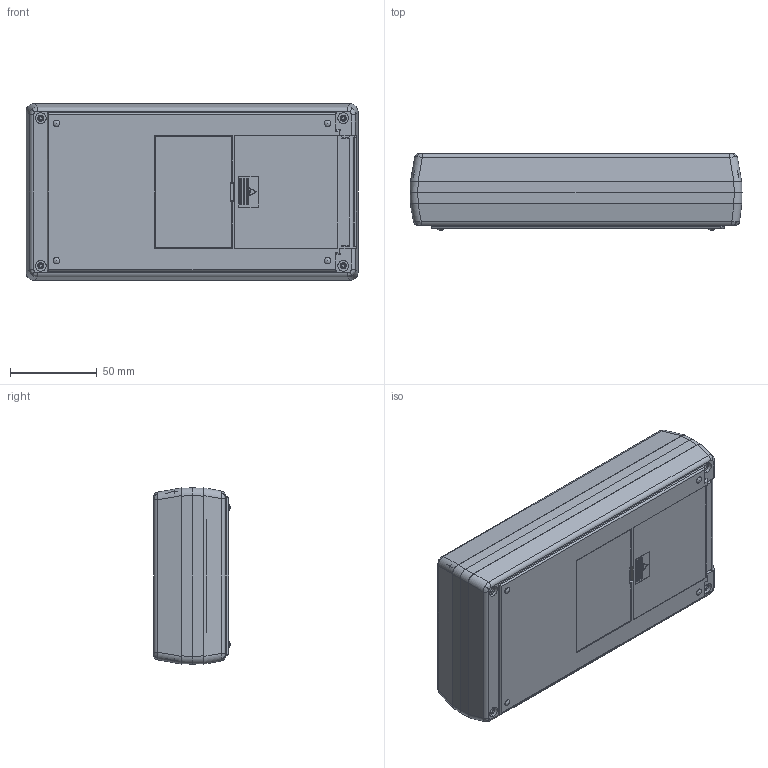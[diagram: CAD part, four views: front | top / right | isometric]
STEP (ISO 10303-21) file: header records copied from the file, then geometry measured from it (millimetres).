
FILE_DESCRIPTION (( 'STEP AP214' ), '1' );
FILE_NAME ('101-41-29V-E-R.STEP', '2019-12-01T01:30:53', ( 'Rudy' ), ( '' ), 'SwSTEP 2.0', 'SolidWorks 2014', '' );
FILE_SCHEMA (( 'AUTOMOTIVE_DESIGN' ));
Length unit declared in the file: millimetre
Products named in the file (5): 100-06 EXPANDER; 29V door; 100-04-LCD Top; 100-01 BOT-29V; 101-41-29V-E-R
Assembly tree (4 placements, depth 2):
  101-41-29V-E-R
    100-01 BOT-29V
    100-04-LCD Top
    29V door
    100-06 EXPANDER
Bounding box: 191 x 44 x 101.4 mm (x, y, z)
Volume: 138784.9 mm3; surface area: 146820.5 mm2
Topology: 4 solids, 4 shells, 816 faces, 2193 edges, 1372 vertices
Faces by surface type: plane 460, cylinder 256, cone 42, bspline 42, torus 12, sphere 4
Entity records: 26706 total; most frequent: CARTESIAN_POINT 6936, ORIENTED_EDGE 4310, DIRECTION 3788, EDGE_CURVE 2155, VECTOR 1460, LINE 1460, VERTEX_POINT 1364, AXIS2_PLACEMENT_3D 1164
